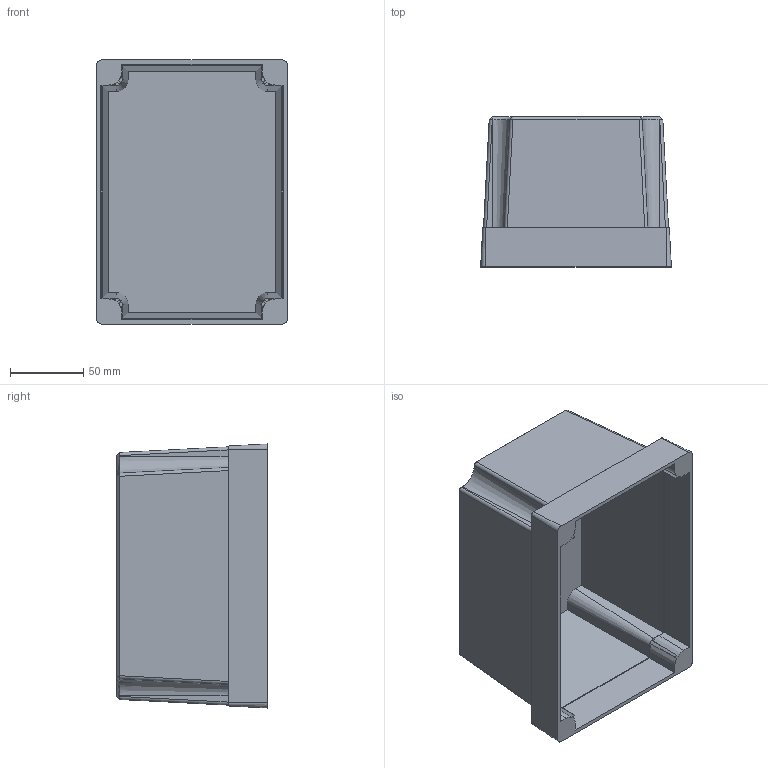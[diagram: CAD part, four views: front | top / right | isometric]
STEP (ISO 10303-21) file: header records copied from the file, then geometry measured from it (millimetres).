
FILE_DESCRIPTION (( 'STEP AP203' ), '1' );
FILE_NAME ('FIBOX_MNX150100C.STEP', '2005-06-30T06:41:34', ( ' ' ), ( ' ' ), 'SwSTEP 2.0', 'SolidWorks 2005143', '' );
FILE_SCHEMA (( 'CONFIG_CONTROL_DESIGN' ));
Length unit declared in the file: millimetre
Products named in the file (1): FIBOX_MNX150100C
Bounding box: 130 x 102.3 x 180 mm (x, y, z)
Volume: 188450.4 mm3; surface area: 158073.2 mm2
Topology: 1 solids, 1 shells, 123 faces, 332 edges, 218 vertices
Faces by surface type: plane 77, cone 24, cylinder 20, bspline 2
Entity records: 7164 total; most frequent: CARTESIAN_POINT 4065, ORIENTED_EDGE 664, DIRECTION 586, EDGE_CURVE 332, VERTEX_POINT 218, AXIS2_PLACEMENT_3D 198, VECTOR 190, LINE 190
